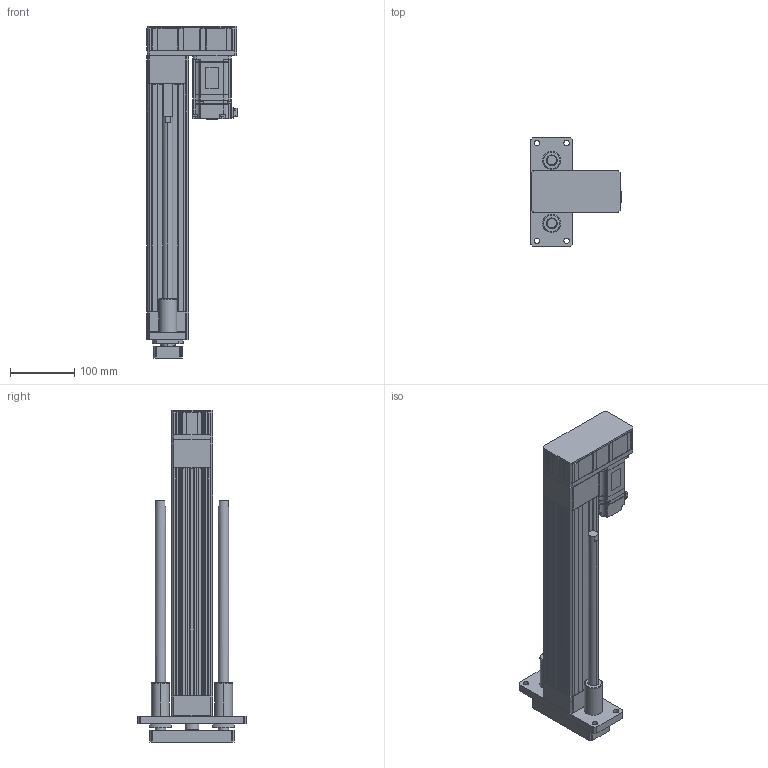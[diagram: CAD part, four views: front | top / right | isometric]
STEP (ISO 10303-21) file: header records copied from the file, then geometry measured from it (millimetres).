
FILE_DESCRIPTION (( 'STEP AP203' ), '1' );
FILE_NAME ('ANS065R-GP250-05(10)(20)-W40.STEP', '2019-03-01T08:55:50', ( 'user' ), ( '' ), 'SwSTEP 2.0', 'SolidWorks 2013', '' );
FILE_SCHEMA (( 'CONFIG_CONTROL_DESIGN' ));
Length unit declared in the file: millimetre
Products named in the file (4): ANS065R-GP250-05(10)(20)-W40; ANS065R GP250 VER2; ANS065 ROD ST250 G; sgmjv_04a_a21
Assembly tree (3 placements, depth 2):
  ANS065R-GP250-05(10)(20)-W40
    ANS065R GP250 VER2
    ANS065 ROD ST250 G
    sgmjv_04a_a21
Bounding box: 140.3 x 170 x 516 mm (x, y, z)
Volume: 1947411.8 mm3; surface area: 477584.5 mm2
Topology: 3 solids, 19 shells, 1720 faces, 4439 edges, 2846 vertices
Faces by surface type: plane 1030, cylinder 504, cone 182, torus 4
Entity records: 52345 total; most frequent: CARTESIAN_POINT 9317, DIRECTION 8915, ORIENTED_EDGE 8830, EDGE_CURVE 4415, LINE 3163, VECTOR 3163, AXIS2_PLACEMENT_3D 2876, VERTEX_POINT 2846
